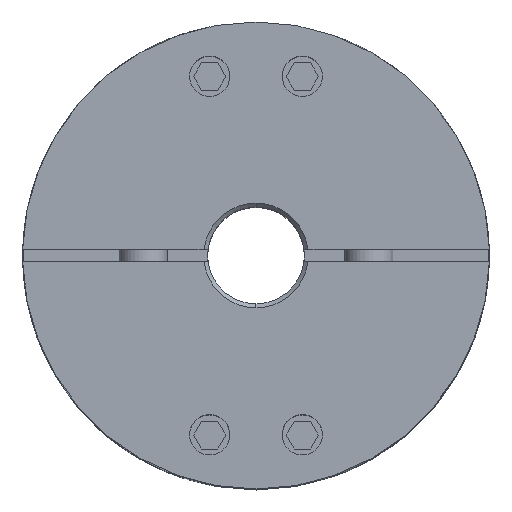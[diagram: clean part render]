
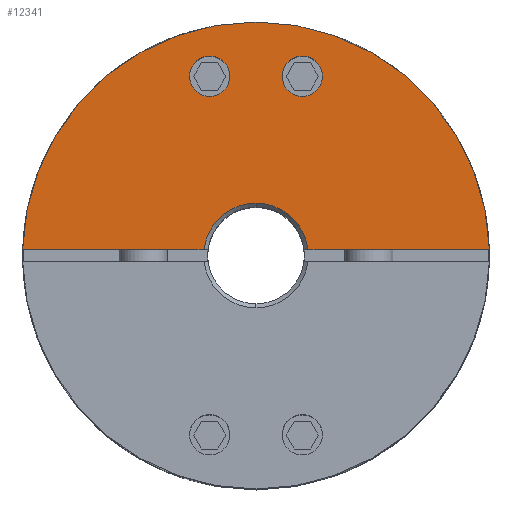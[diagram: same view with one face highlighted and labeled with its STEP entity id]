
A CAD part, top view. The second image highlights one B-rep face of the part: STEP entity #12341.
In plain terms, the highlighted planar face has unit normal (0, 0, 1).
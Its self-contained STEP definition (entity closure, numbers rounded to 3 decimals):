
#4817=CARTESIAN_POINT('',(5.759,24.767,35.75));
#4818=VERTEX_POINT('',#4817);
#4827=CARTESIAN_POINT('',(5.759,19.767,35.75));
#4828=VERTEX_POINT('',#4827);
#4829=CARTESIAN_POINT('',(5.759,22.267,35.75));
#4830=DIRECTION('',(0.0,0.0,-1.0));
#4831=DIRECTION('',(0.0,1.0,0.0));
#4832=AXIS2_PLACEMENT_3D('',#4829,#4830,#4831);
#4833=CIRCLE('',#4832,2.5);
#4834=EDGE_CURVE('',#4828,#4818,#4833,.T.);
#4859=CARTESIAN_POINT('',(-5.759,24.767,35.75));
#4860=VERTEX_POINT('',#4859);
#4869=CARTESIAN_POINT('',(-5.759,19.767,35.75));
#4870=VERTEX_POINT('',#4869);
#4871=CARTESIAN_POINT('',(-5.759,22.267,35.75));
#4872=DIRECTION('',(0.0,0.0,-1.0));
#4873=DIRECTION('',(0.0,1.0,0.0));
#4874=AXIS2_PLACEMENT_3D('',#4871,#4872,#4873);
#4875=CIRCLE('',#4874,2.5);
#4876=EDGE_CURVE('',#4870,#4860,#4875,.T.);
#5113=CARTESIAN_POINT('',(0.,29.0,35.75));
#5114=VERTEX_POINT('',#5113);
#5262=CARTESIAN_POINT('',(-28.99,0.75,35.75));
#5263=VERTEX_POINT('',#5262);
#5270=CARTESIAN_POINT('',(0.,0.0,35.75));
#5271=DIRECTION('',(0.0,0.0,-1.0));
#5272=DIRECTION('',(0.0,1.0,0.0));
#5273=AXIS2_PLACEMENT_3D('',#5270,#5271,#5272);
#5274=CIRCLE('',#5273,29.0);
#5275=EDGE_CURVE('',#5263,#5114,#5274,.T.);
#5447=CARTESIAN_POINT('',(0.,6.5,35.75));
#5448=VERTEX_POINT('',#5447);
#5464=CARTESIAN_POINT('',(6.457,0.75,35.75));
#5465=VERTEX_POINT('',#5464);
#5479=CARTESIAN_POINT('',(0.,0.0,35.75));
#5480=DIRECTION('',(0.0,0.0,1.0));
#5481=DIRECTION('',(0.0,1.0,0.0));
#5482=AXIS2_PLACEMENT_3D('',#5479,#5480,#5481);
#5483=CIRCLE('',#5482,6.5);
#5484=EDGE_CURVE('',#5465,#5448,#5483,.T.);
#11847=CARTESIAN_POINT('',(-6.457,0.75,35.75));
#11848=VERTEX_POINT('',#11847);
#11849=CARTESIAN_POINT('',(0.,0.0,35.75));
#11850=DIRECTION('',(0.0,0.0,1.0));
#11851=DIRECTION('',(0.0,1.0,0.0));
#11852=AXIS2_PLACEMENT_3D('',#11849,#11850,#11851);
#11853=CIRCLE('',#11852,6.5);
#11854=EDGE_CURVE('',#5448,#11848,#11853,.T.);
#11879=CARTESIAN_POINT('',(-28.99,0.75,35.75));
#11880=DIRECTION('',(1.0,0.0,0.0));
#11881=VECTOR('',#11880,22.534);
#11882=LINE('',#11879,#11881);
#11883=EDGE_CURVE('',#5263,#11848,#11882,.T.);
#11915=CARTESIAN_POINT('',(28.99,0.75,35.75));
#11916=VERTEX_POINT('',#11915);
#11923=CARTESIAN_POINT('',(6.457,0.75,35.75));
#11924=DIRECTION('',(1.0,0.0,0.0));
#11925=VECTOR('',#11924,22.534);
#11926=LINE('',#11923,#11925);
#11927=EDGE_CURVE('',#5465,#11916,#11926,.T.);
#12042=CARTESIAN_POINT('',(0.,0.0,35.75));
#12043=DIRECTION('',(0.0,0.0,-1.0));
#12044=DIRECTION('',(0.0,1.0,0.0));
#12045=AXIS2_PLACEMENT_3D('',#12042,#12043,#12044);
#12046=CIRCLE('',#12045,29.0);
#12047=EDGE_CURVE('',#5114,#11916,#12046,.T.);
#12280=CARTESIAN_POINT('',(-5.759,22.267,35.75));
#12281=DIRECTION('',(0.0,0.0,-1.0));
#12282=DIRECTION('',(0.0,1.0,0.0));
#12283=AXIS2_PLACEMENT_3D('',#12280,#12281,#12282);
#12284=CIRCLE('',#12283,2.5);
#12285=EDGE_CURVE('',#4860,#4870,#12284,.T.);
#12298=CARTESIAN_POINT('',(5.759,22.267,35.75));
#12299=DIRECTION('',(0.0,0.0,-1.0));
#12300=DIRECTION('',(0.0,1.0,0.0));
#12301=AXIS2_PLACEMENT_3D('',#12298,#12299,#12300);
#12302=CIRCLE('',#12301,2.5);
#12303=EDGE_CURVE('',#4818,#4828,#12302,.T.);
#12320=CARTESIAN_POINT('',(0.,2.636,35.75));
#12321=DIRECTION('',(0.0,0.0,1.0));
#12322=DIRECTION('',(0.0,1.0,0.0));
#12323=AXIS2_PLACEMENT_3D('',#12320,#12321,#12322);
#12324=PLANE('',#12323);
#12325=ORIENTED_EDGE('',*,*,#5484,.F.);
#12326=ORIENTED_EDGE('',*,*,#11927,.T.);
#12327=ORIENTED_EDGE('',*,*,#12047,.F.);
#12328=ORIENTED_EDGE('',*,*,#5275,.F.);
#12329=ORIENTED_EDGE('',*,*,#11883,.T.);
#12330=ORIENTED_EDGE('',*,*,#11854,.F.);
#12331=EDGE_LOOP('',(#12325,#12326,#12327,#12328,#12329,#12330));
#12332=FACE_OUTER_BOUND('',#12331,.T.);
#12333=ORIENTED_EDGE('',*,*,#12285,.T.);
#12334=ORIENTED_EDGE('',*,*,#4876,.T.);
#12335=EDGE_LOOP('',(#12333,#12334));
#12336=FACE_BOUND('',#12335,.T.);
#12337=ORIENTED_EDGE('',*,*,#12303,.T.);
#12338=ORIENTED_EDGE('',*,*,#4834,.T.);
#12339=EDGE_LOOP('',(#12337,#12338));
#12340=FACE_BOUND('',#12339,.T.);
#12341=ADVANCED_FACE('',(#12332,#12336,#12340),#12324,.T.);
